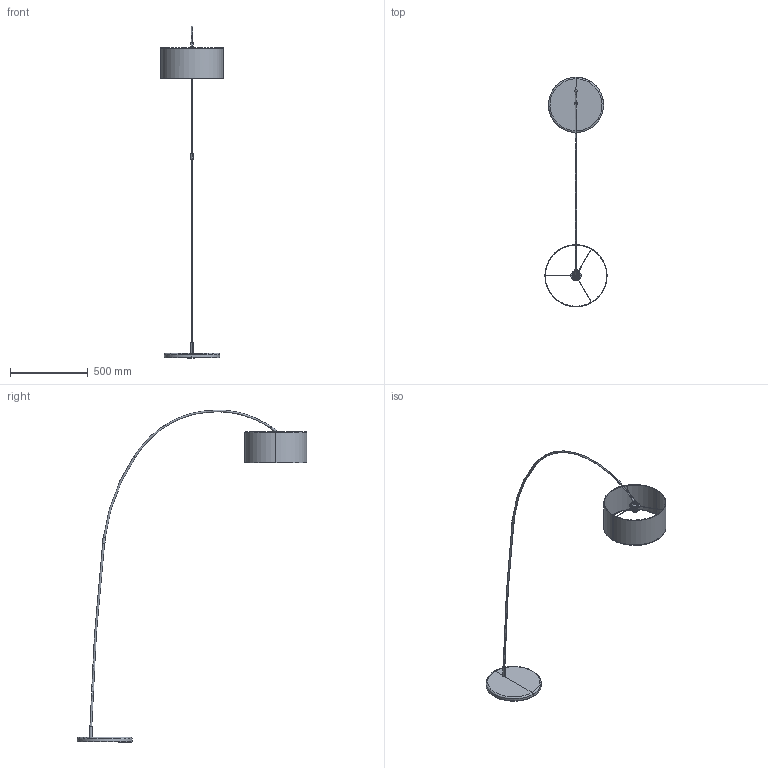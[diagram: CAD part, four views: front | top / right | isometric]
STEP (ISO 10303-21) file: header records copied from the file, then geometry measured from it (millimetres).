
FILE_DESCRIPTION(/* description */ (''),/* implementation_level */ '2;1');
FILE_NAME(/* name */ 'C:\Users\FrancoSartori\Documents\FARO\01_En Proceso\000_SOLICITUD INFO SIN PROCESAR\00_PAPUA\03_Publicación\68462.stp',/* time_stamp */ '2021-10-14T12:29:00+02:00',/* author */ ('FrancoSartori'),/* organization */ (''),/* preprocessor_version */ 'ST-DEVELOPER v18.1',/* originating_system */ 'AutoCAD Mechanical',/* authorisation */ '');
FILE_SCHEMA (('AUTOMOTIVE_DESIGN { 1 0 10303 214 3 1 1 }'));
Length unit declared in the file: millimetre
Products named in the file (3): Product; 68462_ 68463_ - STR-686369-Export; 68462_ 68463_S - SH-686370-Export
Assembly tree (2 placements, depth 2):
  Product
    68462_ 68463_ - STR-686369-Export
    68462_ 68463_S - SH-686370-Export
Bounding box: 400 x 1479.48 x 2135.64 mm (x, y, z)
Volume: 3822051.4 mm3; surface area: 1550939.9 mm2
Topology: 11 solids, 11 shells, 216 faces, 419 edges, 217 vertices
Faces by surface type: cylinder 94, plane 94, torus 24, sphere 2, bspline 2
Entity records: 8533 total; most frequent: CARTESIAN_POINT 4117, DIRECTION 983, ORIENTED_EDGE 834, EDGE_CURVE 417, AXIS2_PLACEMENT_3D 405, EDGE_LOOP 218, VERTEX_POINT 217, FACE_OUTER_BOUND 216
